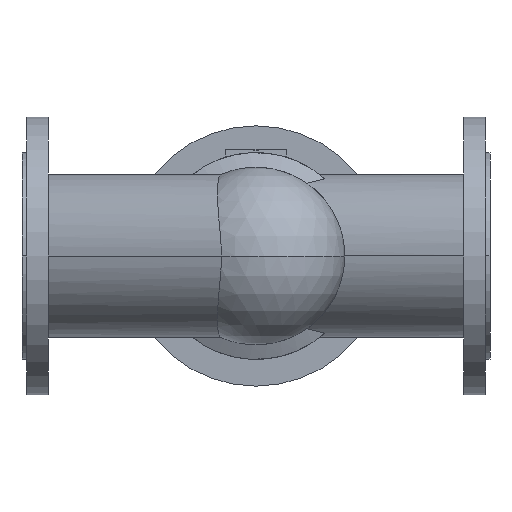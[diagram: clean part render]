
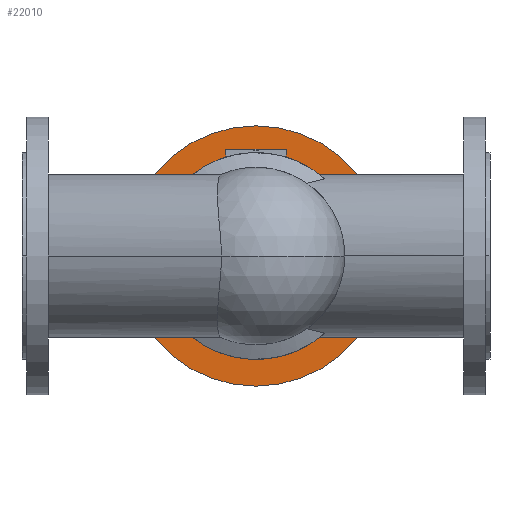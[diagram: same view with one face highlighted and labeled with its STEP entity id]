
A CAD part, front view. The second image highlights one B-rep face of the part: STEP entity #22010.
In plain terms, the highlighted planar face has unit normal (0, -1, 0).
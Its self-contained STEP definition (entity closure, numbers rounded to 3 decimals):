
#1320=CARTESIAN_POINT('',(373.5,143.2,0.));
#1330=VERTEX_POINT('',#1320);
#1380=CARTESIAN_POINT('',(240.,143.2,0.));
#1390=DIRECTION('',(0.,-1.,0.));
#1400=DIRECTION('',(-1.,0.,0.));
#1410=AXIS2_PLACEMENT_3D('',#1380,#1390,#1400);
#1420=CIRCLE('',#1410,133.5);
#1430=CARTESIAN_POINT('',(106.5,143.2,0.));
#1440=VERTEX_POINT('',#1430);
#1450=EDGE_CURVE('',#1330,#1440,#1420,.T.);
#1760=CARTESIAN_POINT('',(134.,143.2,0.));
#1770=VERTEX_POINT('',#1760);
#1800=CARTESIAN_POINT('',(240.,143.2,0.));
#1810=DIRECTION('',(0.,-1.,0.));
#1820=DIRECTION('',(-1.,0.,0.));
#1830=AXIS2_PLACEMENT_3D('',#1800,#1810,#1820);
#1840=CIRCLE('',#1830,106.);
#1850=CARTESIAN_POINT('',(346.,143.2,0.));
#1860=VERTEX_POINT('',#1850);
#1870=EDGE_CURVE('',#1860,#1770,#1840,.T.);
#21860=CARTESIAN_POINT('',(120.25,143.2,0.));
#21870=DIRECTION('',(0.,-1.,0.));
#21880=DIRECTION('',(-1.,0.,0.));
#21890=AXIS2_PLACEMENT_3D('',#21860,#21870,#21880);
#21900=PLANE('',#21890);
#21910=EDGE_CURVE('',#1770,#1860,#1840,.T.);
#21920=ORIENTED_EDGE('',*,*,#21910,.F.);
#21930=ORIENTED_EDGE('',*,*,#1870,.F.);
#21940=EDGE_LOOP('',(#21930,#21920));
#21950=FACE_BOUND('',#21940,.T.);
#21960=ORIENTED_EDGE('',*,*,#1450,.T.);
#21970=EDGE_CURVE('',#1440,#1330,#1420,.T.);
#21980=ORIENTED_EDGE('',*,*,#21970,.T.);
#21990=EDGE_LOOP('',(#21980,#21960));
#22000=FACE_OUTER_BOUND('',#21990,.T.);
#22010=ADVANCED_FACE('',(#21950,#22000),#21900,.T.);
